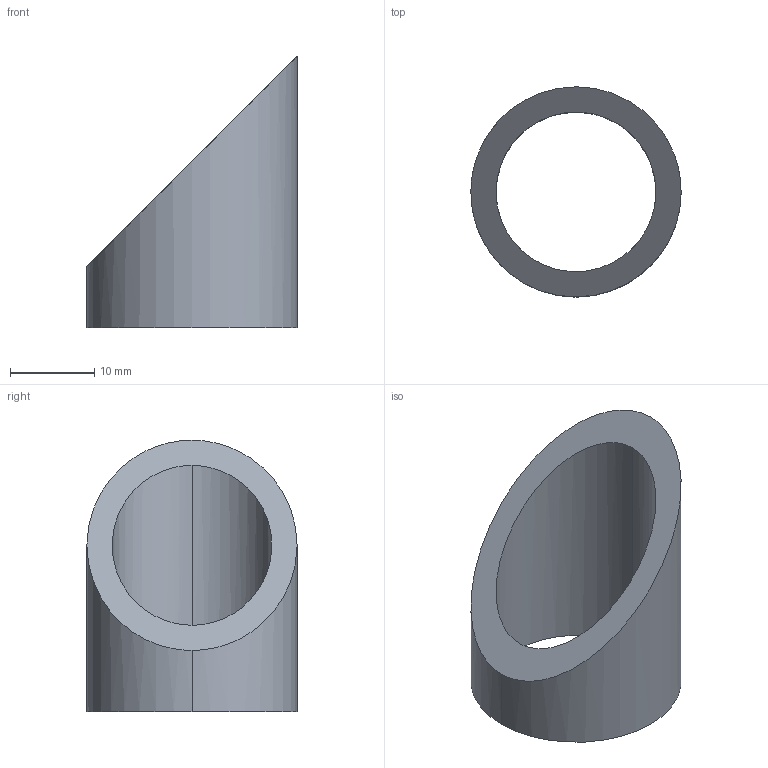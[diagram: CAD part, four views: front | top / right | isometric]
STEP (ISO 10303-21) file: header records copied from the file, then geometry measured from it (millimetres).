
FILE_DESCRIPTION (( 'STEP AP214' ), '1' );
FILE_NAME ('遠倛毀扞噩 - 萵掛 (2).STEP', '2025-08-06T07:27:58', ( '' ), ( '' ), 'SwSTEP 2.0', 'SolidWorks 2024', '' );
FILE_SCHEMA (( 'AUTOMOTIVE_DESIGN' ));
Length unit declared in the file: millimetre
Products named in the file (1): 环形反射镜 - 副本 (2)
Bounding box: 25 x 25 x 32.3 mm (x, y, z)
Volume: 4104.9 mm3; surface area: 3237.2 mm2
Topology: 1 solids, 1 shells, 6 faces, 12 edges, 8 vertices
Faces by surface type: cylinder 4, plane 2
Entity records: 187 total; most frequent: CARTESIAN_POINT 39, DIRECTION 26, ORIENTED_EDGE 24, EDGE_CURVE 12, AXIS2_PLACEMENT_3D 11, EDGE_LOOP 8, VERTEX_POINT 8, ADVANCED_FACE 6
